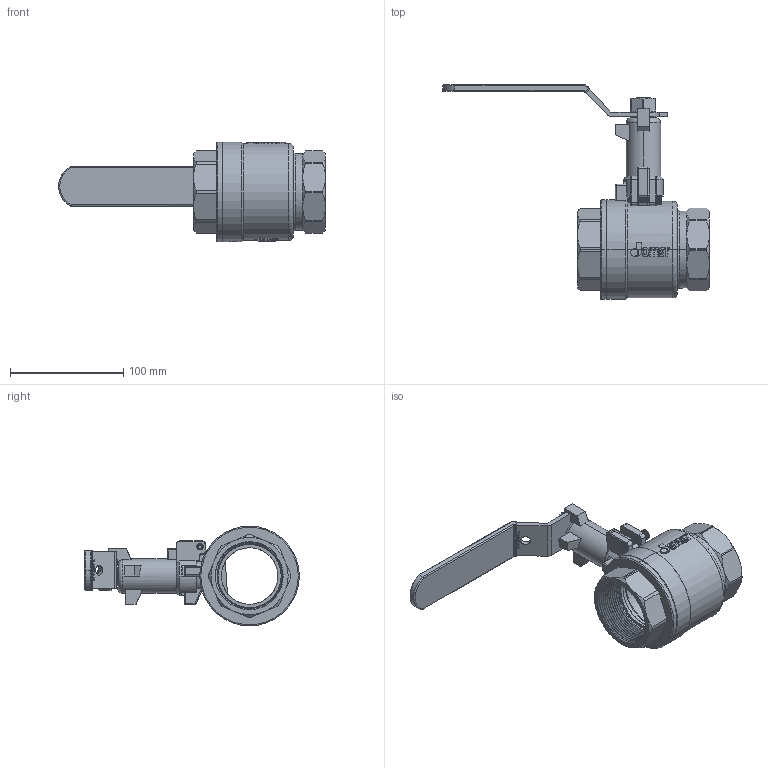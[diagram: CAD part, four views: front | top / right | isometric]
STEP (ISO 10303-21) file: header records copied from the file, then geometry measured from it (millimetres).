
FILE_DESCRIPTION (( 'STEP AP203' ), '1' );
FILE_NAME ('DN50-JOMAR增高套筒估價圖-牙口無掛鎖.STEP', '2024-04-09T07:53:05', ( '' ), ( '' ), 'SwSTEP 2.0', 'SolidWorks 2018', '' );
FILE_SCHEMA (( 'CONFIG_CONTROL_DESIGN' ));
Length unit declared in the file: millimetre
Products named in the file (17): DN50-PIPE 2; GBL218; DN50-白鐵中心栓; BBL708A-2''''JOMAR八角頭-無鉛無插溝; DN50-牙套; EBL308; SCREW-M5內六角-25L; NBL268; DN50-JOMAR增高套筒估價圖-牙口無掛鎖; TBL269; BBL708-2''''JOMAR球閥體-無鉛-無插溝; CBL238; EBL208C; DN50-CBL238白色膠套-T-200CSSG; EBL208B; DN40-DN50-CBL707-無掛鎖把手組合-白色膠套 T-200CSSG; RBL267
Assembly tree (18 placements, depth 3):
  DN50-JOMAR增高套筒估價圖-牙口無掛鎖
    BBL708-2''''JOMAR球閥體-無鉛-無插溝
    EBL208C
    EBL208B
    RBL267
    GBL218
    BBL708A-2''''JOMAR八角頭-無鉛無插溝
    EBL308  x2
    NBL268
    TBL269
    DN40-DN50-CBL707-無掛鎖把手組合-白色膠套 T-200CSSG
      CBL238
      DN50-CBL238白色膠套-T-200CSSG
    DN50-CBL238白色膠套-T-200CSSG
    DN50-PIPE 2
    DN50-白鐵中心栓
    DN50-牙套
    SCREW-M5內六角-25L
Bounding box: 235.7 x 189.71 x 88 mm (x, y, z)
Volume: 384148.1 mm3; surface area: 211013.2 mm2
Topology: 17 solids, 17 shells, 4326 faces, 11725 edges, 7746 vertices
Faces by surface type: plane 2237, bspline 1153, cylinder 633, cone 237, torus 52, sphere 14
Entity records: 197528 total; most frequent: CARTESIAN_POINT 129216, ORIENTED_EDGE 15856, DIRECTION 10759, EDGE_CURVE 7928, VERTEX_POINT 5227, LINE 4231, VECTOR 4231, AXIS2_PLACEMENT_3D 3264
